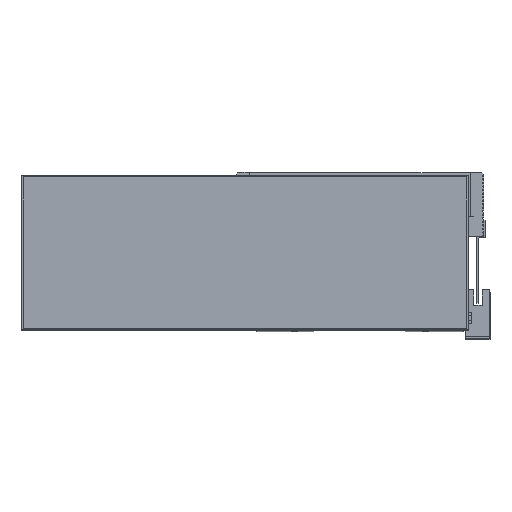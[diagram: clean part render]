
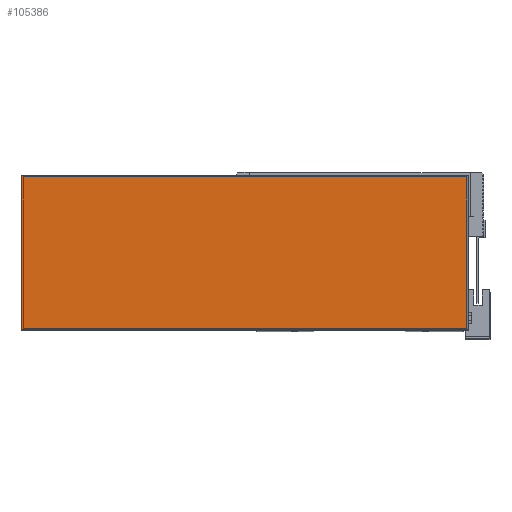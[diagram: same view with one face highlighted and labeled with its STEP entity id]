
A CAD part, top view. The second image highlights one B-rep face of the part: STEP entity #105386.
In plain terms, the highlighted planar face has unit normal (0, 0, 1) as drawn and (0, 0, -1) by its records, which use the part's own axes.
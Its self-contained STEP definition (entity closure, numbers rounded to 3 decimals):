
#10638 = CARTESIAN_POINT ( 'NONE',  ( 0., 0., -1. ) ) ;
#11342 = LINE ( 'NONE', #35526, #126753 ) ;
#21536 = DIRECTION ( 'NONE',  ( 0., 0., 1. ) ) ;
#21971 = EDGE_CURVE ( 'NONE', #29742, #94145, #49063, .T. ) ;
#29742 = VERTEX_POINT ( 'NONE', #57089 ) ;
#31027 = CARTESIAN_POINT ( 'NONE',  ( -126.25, -43.75, -1. ) ) ;
#35526 = CARTESIAN_POINT ( 'NONE',  ( 126.25, 43.75, -1. ) ) ;
#40488 = VERTEX_POINT ( 'NONE', #118564 ) ;
#41799 = VECTOR ( 'NONE', #114845, 1000. ) ;
#48245 = LINE ( 'NONE', #31027, #73655 ) ;
#49063 = LINE ( 'NONE', #131182, #67634 ) ;
#49879 = CARTESIAN_POINT ( 'NONE',  ( -126.25, 43.75, -1. ) ) ;
#53241 = DIRECTION ( 'NONE',  ( -1., 0., 0. ) ) ;
#57089 = CARTESIAN_POINT ( 'NONE',  ( -126.25, 43.75, -1. ) ) ;
#64456 = VERTEX_POINT ( 'NONE', #81882 ) ;
#64732 = EDGE_LOOP ( 'NONE', ( #85504, #94594, #68846, #103235 ) ) ;
#67634 = VECTOR ( 'NONE', #77015, 1000. ) ;
#68846 = ORIENTED_EDGE ( 'NONE', *, *, #130615, .T. ) ;
#73655 = VECTOR ( 'NONE', #53241, 1000. ) ;
#75006 = FACE_OUTER_BOUND ( 'NONE', #64732, .T. ) ;
#77015 = DIRECTION ( 'NONE',  ( 1., 0., 0. ) ) ;
#77407 = LINE ( 'NONE', #49879, #41799 ) ;
#77547 = AXIS2_PLACEMENT_3D ( 'NONE', #10638, #21536, #97314 ) ;
#78002 = EDGE_CURVE ( 'NONE', #64456, #29742, #77407, .T. ) ;
#78598 = DIRECTION ( 'NONE',  ( 0., -1., 0. ) ) ;
#81882 = CARTESIAN_POINT ( 'NONE',  ( -126.25, -43.75, -1. ) ) ;
#85504 = ORIENTED_EDGE ( 'NONE', *, *, #78002, .T. ) ;
#88413 = EDGE_CURVE ( 'NONE', #40488, #64456, #48245, .T. ) ;
#94145 = VERTEX_POINT ( 'NONE', #134822 ) ;
#94594 = ORIENTED_EDGE ( 'NONE', *, *, #21971, .T. ) ;
#97314 = DIRECTION ( 'NONE',  ( 1., 0., 0. ) ) ;
#103235 = ORIENTED_EDGE ( 'NONE', *, *, #88413, .T. ) ;
#105386 = ADVANCED_FACE ( 'NONE', ( #75006 ), #140162, .F. ) ;
#114845 = DIRECTION ( 'NONE',  ( 0., 1., 0. ) ) ;
#118564 = CARTESIAN_POINT ( 'NONE',  ( 126.25, -43.75, -1. ) ) ;
#126753 = VECTOR ( 'NONE', #78598, 1000. ) ;
#130615 = EDGE_CURVE ( 'NONE', #94145, #40488, #11342, .T. ) ;
#131182 = CARTESIAN_POINT ( 'NONE',  ( -126.25, 43.75, -1. ) ) ;
#134822 = CARTESIAN_POINT ( 'NONE',  ( 126.25, 43.75, -1. ) ) ;
#140162 = PLANE ( 'NONE',  #77547 ) ;
